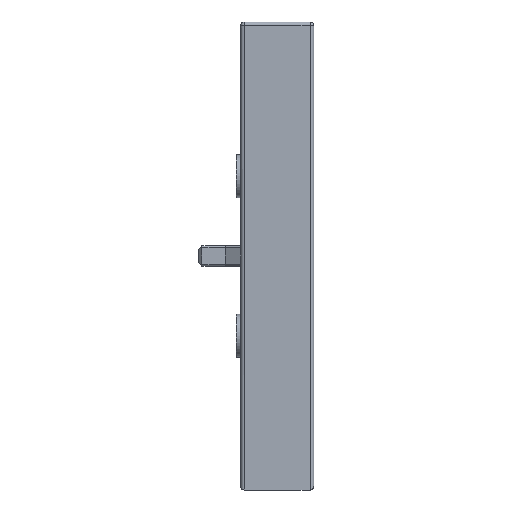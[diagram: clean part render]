
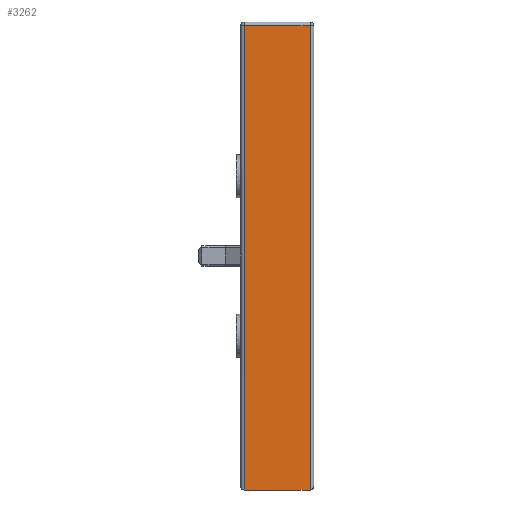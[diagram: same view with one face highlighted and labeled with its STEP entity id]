
A CAD part, front view. The second image highlights one B-rep face of the part: STEP entity #3262.
In plain terms, the highlighted planar face has unit normal (0, -1, 0).
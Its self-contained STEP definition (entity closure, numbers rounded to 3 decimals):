
#2 = VECTOR ( 'NONE', #3401, 1000. ) ;
#224 = DIRECTION ( 'NONE',  ( 0., 0., -1. ) ) ;
#314 = LINE ( 'NONE', #3809, #2507 ) ;
#338 = CARTESIAN_POINT ( 'NONE',  ( 4.5, 0., 31.5 ) ) ;
#482 = ORIENTED_EDGE ( 'NONE', *, *, #3341, .T. ) ;
#569 = VERTEX_POINT ( 'NONE', #1674 ) ;
#585 = FACE_OUTER_BOUND ( 'NONE', #3383, .T. ) ;
#619 = DIRECTION ( 'NONE',  ( 0., 1., 0. ) ) ;
#765 = LINE ( 'NONE', #2910, #2306 ) ;
#1047 = CARTESIAN_POINT ( 'NONE',  ( -4.5, 0., -32. ) ) ;
#1271 = VERTEX_POINT ( 'NONE', #1047 ) ;
#1280 = CARTESIAN_POINT ( 'NONE',  ( 4.5, 0., -32. ) ) ;
#1599 = VERTEX_POINT ( 'NONE', #338 ) ;
#1635 = EDGE_CURVE ( 'NONE', #3182, #1271, #2913, .T. ) ;
#1674 = CARTESIAN_POINT ( 'NONE',  ( -4.5, 0., 31.5 ) ) ;
#1705 = AXIS2_PLACEMENT_3D ( 'NONE', #1755, #619, #2653 ) ;
#1716 = DIRECTION ( 'NONE',  ( -1., 0., 0. ) ) ;
#1755 = CARTESIAN_POINT ( 'NONE',  ( 5., 0., -32. ) ) ;
#1917 = CARTESIAN_POINT ( 'NONE',  ( 4.5, 0., -32. ) ) ;
#1985 = ORIENTED_EDGE ( 'NONE', *, *, #1635, .F. ) ;
#2069 = PLANE ( 'NONE',  #1705 ) ;
#2306 = VECTOR ( 'NONE', #1716, 1000. ) ;
#2507 = VECTOR ( 'NONE', #224, 1000. ) ;
#2653 = DIRECTION ( 'NONE',  ( 0., 0., 1. ) ) ;
#2683 = ORIENTED_EDGE ( 'NONE', *, *, #2760, .T. ) ;
#2760 = EDGE_CURVE ( 'NONE', #569, #1271, #314, .T. ) ;
#2910 = CARTESIAN_POINT ( 'NONE',  ( 5., 0., 31.5 ) ) ;
#2913 = LINE ( 'NONE', #3285, #3373 ) ;
#2956 = LINE ( 'NONE', #1280, #2 ) ;
#3182 = VERTEX_POINT ( 'NONE', #1917 ) ;
#3226 = EDGE_CURVE ( 'NONE', #1599, #569, #765, .T. ) ;
#3262 = ADVANCED_FACE ( 'NONE', ( #585 ), #2069, .F. ) ;
#3285 = CARTESIAN_POINT ( 'NONE',  ( 5., 0., -32. ) ) ;
#3341 = EDGE_CURVE ( 'NONE', #3182, #1599, #2956, .T. ) ;
#3373 = VECTOR ( 'NONE', #3630, 1000. ) ;
#3383 = EDGE_LOOP ( 'NONE', ( #3594, #2683, #1985, #482 ) ) ;
#3401 = DIRECTION ( 'NONE',  ( 0., 0., 1. ) ) ;
#3594 = ORIENTED_EDGE ( 'NONE', *, *, #3226, .T. ) ;
#3630 = DIRECTION ( 'NONE',  ( -1., 0., 0. ) ) ;
#3809 = CARTESIAN_POINT ( 'NONE',  ( -4.5, 0., -32. ) ) ;
